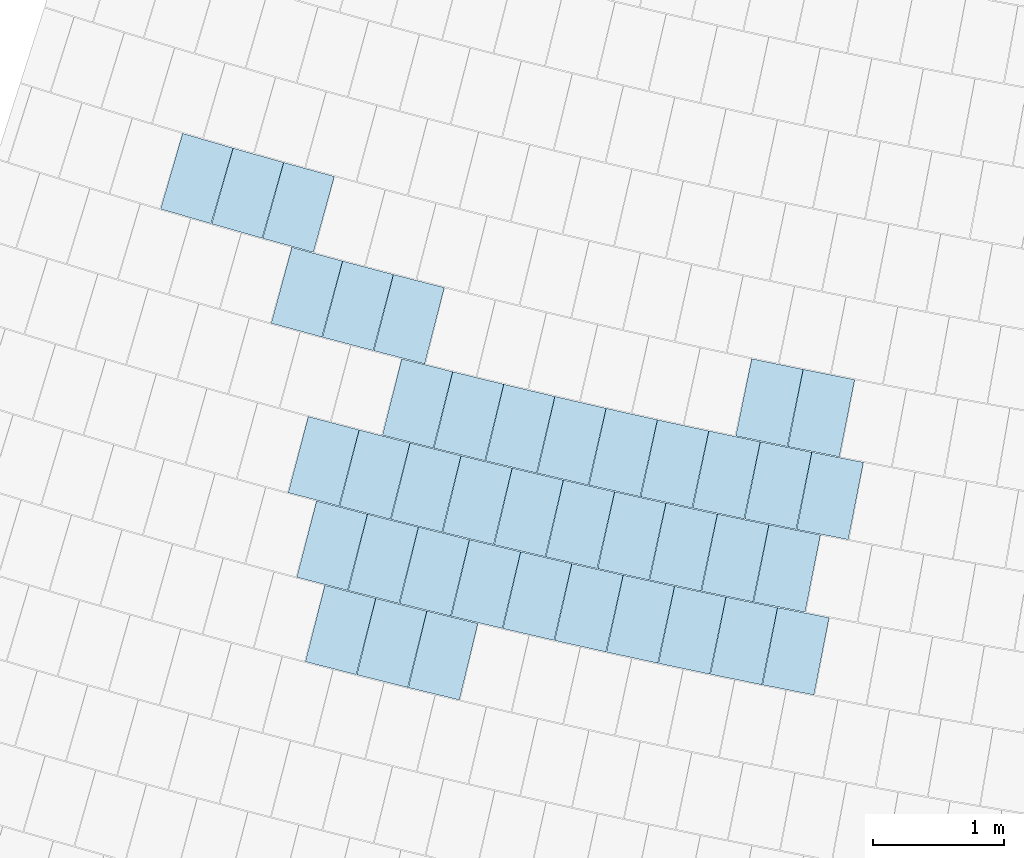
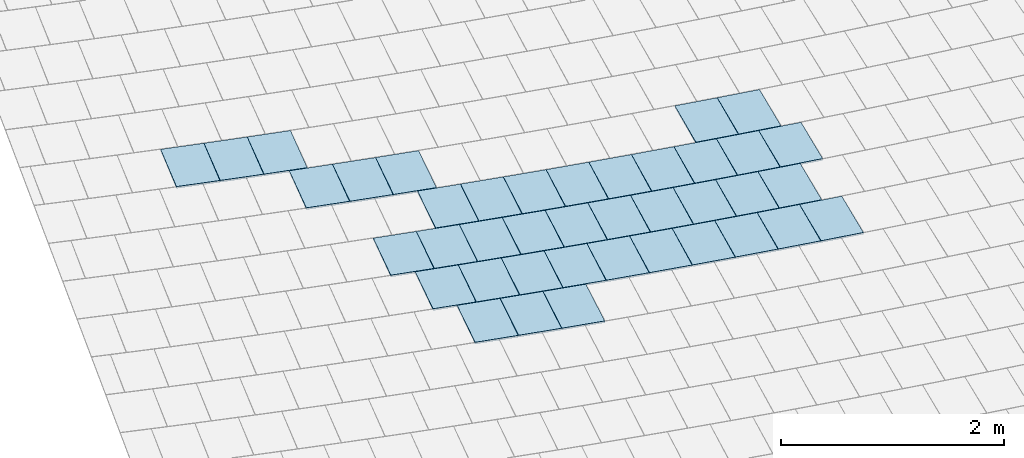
# One storey, part 21 of 438: 40 slabs.
"""IFC2X3 building model written with IfcOpenShell, lengths in millimetres."""

import ifcopenshell
import ifcopenshell.guid

model = None  # the IFC model being written
_history = None  # IfcOwnerHistory: only IFC2X3 demands one
_inside = {}  # id of a spatial element -> (the spatial element, [elements in it])
_under = {}  # id of a project, library or spatial element -> (it, [spatial elements below it])
_declared = {}  # id of a project -> (the project, [libraries it declares])
_typed = {}  # id of a type object -> (the type object, [elements of that type])
_made_of = {}  # id of a material, layer set ... -> (it, [elements and type objects made of it])


def new_model(schema):
    """Start an empty IFC model of exactly this schema.

    Asked for "IFC4X3", IfcOpenShell would pick the latest addendum, in which some entities
    have other attributes; the version numbers below select the first issue.
    IFC2X3 requires an IfcOwnerHistory on every rooted entity: one is made here for all.
    """
    global model, _history
    if schema == "IFC4X3":
        model = ifcopenshell.file(schema_version=(4, 3, 0, 0))
    else:
        model = ifcopenshell.file(schema=schema)
    _inside.clear()
    _under.clear()
    _declared.clear()
    _typed.clear()
    _made_of.clear()
    _history = None
    if model.schema == "IFC2X3":
        org = make("IfcOrganization", Name="unknown")
        user = make(
            "IfcPersonAndOrganization",
            ThePerson=make("IfcPerson", FamilyName="unknown"),
            TheOrganization=org,
        )
        app = make(
            "IfcApplication",
            ApplicationDeveloper=org,
            Version="unknown",
            ApplicationFullName="unknown",
            ApplicationIdentifier="unknown",
        )
        _history = make(
            "IfcOwnerHistory",
            OwningUser=user,
            OwningApplication=app,
            ChangeAction="ADDED",
            CreationDate=0,
        )
    return model


def make(cls, **values):
    """One entity of the class cls with the attributes given. An attribute that is None is left unset."""
    return model.create_entity(
        cls, **{name: value for name, value in values.items() if value is not None}
    )


def entity(cls, *values):
    """Any entity or typed value of the class cls, its attributes in the order of the schema. None: left unset."""
    e = model.create_entity(cls)
    for i, value in enumerate(values):
        if value is not None:
            e[i] = value
    return e


def rooted(cls, **values):
    """An entity with a GlobalId (a new one), such as an element, a storey or a relation."""
    return make(cls, GlobalId=ifcopenshell.guid.new(), OwnerHistory=_history, **values)


def si_unit(unit_type, name, prefix=None):
    """IfcSIUnit, for example si_unit("LENGTHUNIT", "METRE", prefix="MILLI")."""
    return make("IfcSIUnit", UnitType=unit_type, Prefix=prefix, Name=name)


def converted_unit(unit_type, name, factor, base, dimensions=None, offset=None):
    """IfcConversionBasedUnit, such as the inch: factor (a typed value) times the base unit."""
    return make(
        "IfcConversionBasedUnit"
        if offset is None
        else "IfcConversionBasedUnitWithOffset",
        ConversionOffset=offset,
        Dimensions=None
        if dimensions is None
        else entity("IfcDimensionalExponents", *dimensions),
        UnitType=unit_type,
        Name=name,
        ConversionFactor=make(
            "IfcMeasureWithUnit", ValueComponent=factor, UnitComponent=base
        ),
    )


def derived_unit(unit_type, elements):
    """IfcDerivedUnit: a product of units, each with its exponent."""
    return make(
        "IfcDerivedUnit",
        Elements=[
            make("IfcDerivedUnitElement", Unit=unit, Exponent=power)
            for unit, power in elements
        ],
        UnitType=unit_type,
    )


def assignment(units):
    """IfcUnitAssignment: the units of a project."""
    return None if units is None else make("IfcUnitAssignment", Units=units)


def point(xyz):
    """IfcCartesianPoint."""
    return None if xyz is None else make("IfcCartesianPoint", Coordinates=xyz)


def direction(xyz):
    """IfcDirection."""
    return None if xyz is None else make("IfcDirection", DirectionRatios=xyz)


def frame(location, z_axis=None, x_axis=None):
    """IfcAxis2Placement3D, a coordinate frame: its origin and axes. An axis left out is left unset."""
    return make(
        "IfcAxis2Placement3D",
        Location=point(location),
        Axis=direction(z_axis),
        RefDirection=direction(x_axis),
    )


def origin():
    """The frame at (0, 0, 0) with its axes left unset."""
    return frame((0.0, 0.0, 0.0))


def place(relative_to, where):
    """IfcLocalPlacement: puts the frame where relative to a parent placement (None: the world)."""
    return make(
        "IfcLocalPlacement", PlacementRelTo=relative_to, RelativePlacement=where
    )


def context(
    kind, dimensions, precision=None, world=None, true_north=None, identifier=None
):
    """IfcGeometricRepresentationContext, for example the 3D "Model" context."""
    return make(
        "IfcGeometricRepresentationContext",
        ContextIdentifier=identifier,
        ContextType=kind,
        CoordinateSpaceDimension=dimensions,
        Precision=precision,
        WorldCoordinateSystem=world,
        TrueNorth=true_north,
    )


def subcontext(parent, identifier, kind, view, scale=None):
    """IfcGeometricRepresentationSubContext, for example "Body" below "Model"."""
    return make(
        "IfcGeometricRepresentationSubContext",
        ContextIdentifier=identifier,
        ContextType=kind,
        ParentContext=parent,
        TargetScale=scale,
        TargetView=view,
    )


def project(units=None, contexts=None):
    """IfcProject with its units and contexts."""
    return rooted(
        "IfcProject",
        Name="project",
        RepresentationContexts=contexts,
        UnitsInContext=assignment(units),
    )


def spatial(cls, under=None, at=None, **own):
    """A site, building, storey or space (cls), placed at a placement, below another one or the project."""
    s = rooted(cls, ObjectPlacement=at, **own)
    if under is not None:
        _under.setdefault(under.id(), (under, []))[1].append(s)
    return s


def polyline(points):
    """IfcPolyline through the points."""
    return make("IfcPolyline", Points=[point(p) for p in points])


def outline(outer, holes=None, kind="AREA"):
    """IfcArbitraryClosedProfileDef: a profile drawn as a closed curve; with holes, ...WithVoids."""
    if holes is None:
        return make("IfcArbitraryClosedProfileDef", ProfileType=kind, OuterCurve=outer)
    return make(
        "IfcArbitraryProfileDefWithVoids",
        ProfileType=kind,
        OuterCurve=outer,
        InnerCurves=holes,
    )


def extrude(swept, where, along, depth):
    """IfcExtrudedAreaSolid: the profile swept, set in the frame where, extruded along a direction by depth."""
    return make(
        "IfcExtrudedAreaSolid",
        SweptArea=swept,
        Position=where,
        ExtrudedDirection=direction(along),
        Depth=depth,
    )


def shape(context_of_items, identifier, shape_type, items):
    """IfcShapeRepresentation: the items that make up one representation, for example the "Body"."""
    return make(
        "IfcShapeRepresentation",
        ContextOfItems=context_of_items,
        RepresentationIdentifier=identifier,
        RepresentationType=shape_type,
        Items=items,
    )


def material(Name=None, Category=None):
    """IfcMaterial."""
    return make("IfcMaterial", Name=Name, Category=Category)


def layer(
    of_material, thickness, ventilated=None, Name=None, Category=None, Priority=None
):
    """IfcMaterialLayer: one layer of a wall or slab, of a material (None: an air gap)."""
    return make(
        "IfcMaterialLayer",
        Material=of_material,
        LayerThickness=thickness,
        IsVentilated=ventilated,
        Name=Name,
        Category=Category,
        Priority=Priority,
    )


def layer_set(layers, Name=None):
    """IfcMaterialLayerSet."""
    return make("IfcMaterialLayerSet", MaterialLayers=layers, LayerSetName=Name)


def layer_usage(for_layer_set, set_direction, sense, offset, extent=None):
    """IfcMaterialLayerSetUsage: how a layer set lies in its element."""
    return make(
        "IfcMaterialLayerSetUsage",
        ForLayerSet=for_layer_set,
        LayerSetDirection=set_direction,
        DirectionSense=sense,
        OffsetFromReferenceLine=offset,
        ReferenceExtent=extent,
    )


def made_of(thing, what):
    """Note that an element or type object is made of a material, layer set ...; save() writes the relation."""
    if what is not None:
        _made_of.setdefault(what.id(), (what, []))[1].append(thing)
    return thing


def type_object(cls, material=None, **own):
    """A type object (cls), such as IfcWallType, which elements share."""
    return made_of(rooted(cls, **own), material)


def element(
    cls,
    number,
    at=None,
    inside=None,
    cuts=None,
    type_object=None,
    material=None,
    context=None,
    identifier="Body",
    shape_type=None,
    held_by="IfcProductDefinitionShape",
    body=None,
    shapes=None,
    **own,
):
    """One element of the class cls, such as IfcWall. Its Tag is "e" and its number.

    at: its placement. inside: the storey or other place that contains it. cuts: it is an
    opening in that element (IfcRelVoidsElement). A single representation is given by context,
    identifier, shape_type and body (its items); several are given by shapes. held_by: the class
    of the entity that holds the representations. save() writes the other relations.
    """
    e = rooted(cls, Tag="e%d" % number, ObjectPlacement=at, **own)
    if body is not None:
        shapes = [shape(context, identifier, shape_type, body)]
    if shapes is not None:
        e.Representation = make(held_by, Representations=shapes)
    if inside is not None:
        _inside.setdefault(inside.id(), (inside, []))[1].append(e)
    if cuts is not None:
        rooted(
            "IfcRelVoidsElement", RelatingBuildingElement=cuts, RelatedOpeningElement=e
        )
    if type_object is not None:
        _typed.setdefault(type_object.id(), (type_object, []))[1].append(e)
    return made_of(e, material)


def aggregate(whole, parts):
    """IfcRelAggregates: a whole, such as a stair, and the parts it consists of."""
    return rooted("IfcRelAggregates", RelatingObject=whole, RelatedObjects=parts)


def save(model, path):
    """Write the relations noted so far, then the file.

    IfcRelAggregates (storeys below a building ...), IfcRelContainedInSpatialStructure (elements
    in a storey), IfcRelDefinesByType, IfcRelAssociatesMaterial and IfcRelDeclares: one each for
    every whole, place, type object, material and project.
    """
    for whole, parts in _under.values():
        aggregate(whole, parts)
    for where, things in _inside.values():
        rooted(
            "IfcRelContainedInSpatialStructure",
            RelatedElements=things,
            RelatingStructure=where,
        )
    for kind, things in _typed.values():
        rooted("IfcRelDefinesByType", RelatedObjects=things, RelatingType=kind)
    for what, things in _made_of.values():
        rooted("IfcRelAssociatesMaterial", RelatedObjects=things, RelatingMaterial=what)
    for by, libraries in _declared.values():
        rooted("IfcRelDeclares", RelatingContext=by, RelatedDefinitions=libraries)
    model.write(path)


model = new_model("IFC2X3")

# Units and contexts
model_context = context("Model", 3, precision=0.01, world=origin(), true_north=direction((6.123031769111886e-17, 1.0)))
body_context = subcontext(model_context, "Body", "Model", "MODEL_VIEW")
ifc_project = project(units=[si_unit("LENGTHUNIT", "METRE", prefix="MILLI"), si_unit("AREAUNIT", "SQUARE_METRE"), si_unit("VOLUMEUNIT", "CUBIC_METRE"), converted_unit("PLANEANGLEUNIT", "DEGREE", entity("IfcRatioMeasure", 0.017453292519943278), si_unit("PLANEANGLEUNIT", "RADIAN"), dimensions=[0, 0, 0, 0, 0, 0, 0]), si_unit("MASSUNIT", "GRAM", prefix="KILO"), derived_unit("MASSDENSITYUNIT", [(si_unit("MASSUNIT", "GRAM", prefix="KILO"), 1), (si_unit("LENGTHUNIT", "METRE"), -3)]), derived_unit("MOMENTOFINERTIAUNIT", [(si_unit("LENGTHUNIT", "METRE"), 4)]), si_unit("TIMEUNIT", "SECOND"), si_unit("FREQUENCYUNIT", "HERTZ"), si_unit("THERMODYNAMICTEMPERATUREUNIT", "DEGREE_CELSIUS"), derived_unit("THERMALTRANSMITTANCEUNIT", [(si_unit("MASSUNIT", "GRAM", prefix="KILO"), 1), (si_unit("THERMODYNAMICTEMPERATUREUNIT", "KELVIN"), -1), (si_unit("TIMEUNIT", "SECOND"), -3)]), derived_unit("THERMALCONDUCTANCEUNIT", [(si_unit("MASSUNIT", "GRAM", prefix="KILO"), 1), (si_unit("LENGTHUNIT", "METRE"), 1), (si_unit("THERMODYNAMICTEMPERATUREUNIT", "KELVIN"), -1), (si_unit("TIMEUNIT", "SECOND"), -3)]), derived_unit("VOLUMETRICFLOWRATEUNIT", [(si_unit("LENGTHUNIT", "METRE"), 3), (si_unit("TIMEUNIT", "SECOND"), -1)]), derived_unit("MASSFLOWRATEUNIT", [(si_unit("MASSUNIT", "GRAM", prefix="KILO"), 1), (si_unit("TIMEUNIT", "SECOND"), -1)]), derived_unit("ROTATIONALFREQUENCYUNIT", [(si_unit("TIMEUNIT", "SECOND"), -1)]), si_unit("ELECTRICCURRENTUNIT", "AMPERE"), si_unit("ELECTRICVOLTAGEUNIT", "VOLT"), si_unit("POWERUNIT", "WATT"), converted_unit("FORCEUNIT", "KIP", entity("IfcRatioMeasure", 2.088543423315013e-05), si_unit("FORCEUNIT", "NEWTON"), dimensions=[1, 1, -2, 0, 0, 0, 0]), si_unit("ILLUMINANCEUNIT", "LUX"), si_unit("LUMINOUSFLUXUNIT", "LUMEN"), si_unit("LUMINOUSINTENSITYUNIT", "CANDELA"), derived_unit("USERDEFINED", [(si_unit("MASSUNIT", "GRAM", prefix="KILO"), -1), (si_unit("LENGTHUNIT", "METRE"), -2), (si_unit("TIMEUNIT", "SECOND"), 3), (si_unit("LUMINOUSFLUXUNIT", "LUMEN"), 1)]), derived_unit("USERDEFINED", [(si_unit("MASSUNIT", "GRAM", prefix="KILO"), 1), (si_unit("LENGTHUNIT", "METRE"), 3), (si_unit("TIMEUNIT", "SECOND"), -3), (si_unit("ELECTRICCURRENTUNIT", "AMPERE"), -2)]), derived_unit("USERDEFINED", [(si_unit("LENGTHUNIT", "METRE"), 2), (si_unit("TIMEUNIT", "SECOND"), -2)]), derived_unit("SOUNDPOWERUNIT", [(si_unit("MASSUNIT", "GRAM", prefix="KILO"), 1), (si_unit("LENGTHUNIT", "METRE"), 2), (si_unit("TIMEUNIT", "SECOND"), -3)]), derived_unit("SOUNDPRESSUREUNIT", [(si_unit("MASSUNIT", "GRAM", prefix="KILO"), 1), (si_unit("LENGTHUNIT", "METRE"), -1), (si_unit("TIMEUNIT", "SECOND"), -2)]), derived_unit("LINEARVELOCITYUNIT", [(si_unit("LENGTHUNIT", "METRE"), 1), (si_unit("TIMEUNIT", "SECOND"), -1)]), si_unit("PRESSUREUNIT", "PASCAL"), derived_unit("USERDEFINED", [(si_unit("LENGTHUNIT", "METRE"), -2), (si_unit("MASSUNIT", "GRAM", prefix="KILO"), 1), (si_unit("TIMEUNIT", "SECOND"), -2)]), derived_unit("LINEARFORCEUNIT", [(si_unit("MASSUNIT", "GRAM", prefix="KILO"), 1), (si_unit("LENGTHUNIT", "METRE"), 1), (si_unit("TIMEUNIT", "SECOND"), -2), (si_unit("LENGTHUNIT", "METRE"), -1)]), derived_unit("PLANARFORCEUNIT", [(si_unit("MASSUNIT", "GRAM", prefix="KILO"), 1), (si_unit("LENGTHUNIT", "METRE"), 1), (si_unit("TIMEUNIT", "SECOND"), -2), (si_unit("LENGTHUNIT", "METRE"), -2)]), derived_unit("SPECIFICHEATCAPACITYUNIT", [(si_unit("LENGTHUNIT", "METRE"), 2), (si_unit("TIMEUNIT", "SECOND"), -2), (si_unit("THERMODYNAMICTEMPERATUREUNIT", "KELVIN"), -1)]), derived_unit("VAPORPERMEABILITYUNIT", [(si_unit("TIMEUNIT", "SECOND"), 1), (si_unit("LENGTHUNIT", "METRE"), -1)]), derived_unit("DYNAMICVISCOSITYUNIT", [(si_unit("MASSUNIT", "GRAM", prefix="KILO"), 1), (si_unit("LENGTHUNIT", "METRE"), -1), (si_unit("TIMEUNIT", "SECOND"), -1)]), derived_unit("THERMALEXPANSIONCOEFFICIENTUNIT", [(si_unit("THERMODYNAMICTEMPERATUREUNIT", "KELVIN"), -1)])], contexts=[model_context])

# Site, building, storey
site_placement = place(None, frame((0.0, 0.0, 0.0), z_axis=(0.0, 0.0, 1.0), x_axis=(0.8191520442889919, 0.5735764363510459, 0.0)))
site = spatial("IfcSite", under=ifc_project, at=site_placement, Name="Default", CompositionType="ELEMENT")
building_placement = place(site_placement, origin())
building = spatial("IfcBuilding", under=site, at=building_placement, CompositionType="ELEMENT")
storey_placement = place(building_placement, origin())
storey = spatial("IfcBuildingStorey", under=building, at=storey_placement, Name="PLAN", CompositionType="ELEMENT", Elevation=0.0)

# Slabs
ifc_material = material(Name="Paint-01")
ifc_layer = layer(ifc_material, 20.00000000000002)
ifc_layer_set = layer_set([ifc_layer], Name="Floor:Slab-179:1000")
ifc_layer_usage = layer_usage(ifc_layer_set, "AXIS3", "POSITIVE", 0.0)
slab_type = type_object("IfcSlabType", Name="Floor:Slab-179:1000", PredefinedType="FLOOR", material=ifc_layer_set)
slab_1_placement = place(storey_placement, origin())
element("IfcSlab", 1, at=slab_1_placement, inside=storey, type_object=slab_type, material=ifc_layer_usage, Name="Floor:Slab-179:1000", ObjectType="Floor:Slab-179:1000", PredefinedType="FLOOR", context=body_context, shape_type="SweptSolid", body=[
    extrude(outline(polyline([(-200.00000134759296, -299.99999869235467), (200.000004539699, -299.99999869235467), (200.0000013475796, 299.99999869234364), (-200.00000453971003, 299.999998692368), (-200.00000134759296, -299.99999869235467)])), frame((-84722.98040924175, -104624.17001292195, 520.0), z_axis=(0.0, 0.0, -1.0), x_axis=(0.6368566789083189, -0.7709822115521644, 0.0)), (0.0, 0.0, 1.0), 20.000000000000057),
])
slab_2_placement = place(storey_placement, origin())
element("IfcSlab", 2, at=slab_2_placement, inside=storey, type_object=slab_type, material=ifc_layer_usage, Name="Floor:Slab-179:1000", ObjectType="Floor:Slab-179:1000", PredefinedType="FLOOR", context=body_context, shape_type="SweptSolid", body=[
    extrude(outline(polyline([(-200.00000134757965, -299.9999986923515), (200.00000453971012, -299.9999986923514), (200.00000134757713, 299.9999986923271), (-200.00000453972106, 299.99999869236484), (-200.00000134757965, -299.9999986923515)])), frame((-84977.9716988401, -104313.27204079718, 520.0), z_axis=(0.0, 0.0, -1.0), x_axis=(0.6314582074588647, -0.7754099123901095, 0.0)), (0.0, 0.0, 1.0), 20.000000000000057),
])
slab_3_placement = place(storey_placement, origin())
element("IfcSlab", 3, at=slab_3_placement, inside=storey, type_object=slab_type, material=ifc_layer_usage, Name="Floor:Slab-179:1000", ObjectType="Floor:Slab-179:1000", PredefinedType="FLOOR", context=body_context, shape_type="SweptSolid", body=[
    extrude(outline(polyline([(-200.00000134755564, -299.99999869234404), (200.00000453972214, -299.9999986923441), (200.00000134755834, 299.9999986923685), (-200.00000453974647, 299.99999869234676), (-200.00000134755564, -299.99999869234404)])), frame((-85230.78610343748, -104000.60131356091, 520.0), z_axis=(0.0, 0.0, -1.0), x_axis=(0.6260289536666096, -0.7797998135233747, 0.0)), (0.0, 0.0, 1.0), 20.000000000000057),
])
slab_4_placement = place(storey_placement, origin())
element("IfcSlab", 4, at=slab_4_placement, inside=storey, type_object=slab_type, material=ifc_layer_usage, Name="Floor:Slab-179:1000", ObjectType="Floor:Slab-179:1000", PredefinedType="FLOOR", context=body_context, shape_type="SweptSolid", body=[
    extrude(outline(polyline([(-200.00000134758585, -299.99999869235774), (200.00000453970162, -299.99999869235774), (200.0000013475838, 299.99999869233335), (-200.000004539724, 299.9999986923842), (-200.00000134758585, -299.99999869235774)])), frame((-84782.3890638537, -105496.78883078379, 520.0), z_axis=(0.0, 0.0, -1.0), x_axis=(0.645230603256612, -0.763987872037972, 0.0)), (0.0, 0.0, 1.0), 20.000000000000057),
])
slab_5_placement = place(storey_placement, origin())
element("IfcSlab", 5, at=slab_5_placement, inside=storey, type_object=slab_type, material=ifc_layer_usage, Name="Floor:Slab-179:1000", ObjectType="Floor:Slab-179:1000", PredefinedType="FLOOR", context=body_context, shape_type="SweptSolid", body=[
    extrude(outline(polyline([(-200.0000013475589, -299.99999869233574), (200.00000453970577, -299.9999986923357), (200.0000013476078, 299.9999986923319), (-200.00000453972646, 299.99999869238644), (-200.0000013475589, -299.99999869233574)])), frame((-84521.90139005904, -105803.06765436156, 520.0), z_axis=(0.0, 0.0, -1.0), x_axis=(0.6504935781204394, -0.7595117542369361, 0.0)), (0.0, 0.0, 1.0), 20.000000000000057),
])
slab_6_placement = place(storey_placement, origin())
element("IfcSlab", 6, at=slab_6_placement, inside=storey, type_object=slab_type, material=ifc_layer_usage, Name="Floor:Slab-179:1000", ObjectType="Floor:Slab-179:1000", PredefinedType="FLOOR", context=body_context, shape_type="SweptSolid", body=[
    extrude(outline(polyline([(-200.00000134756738, -299.99999869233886), (200.00000453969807, -299.9999986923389), (200.0000013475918, 299.9999986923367), (-200.00000453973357, 299.99999869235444), (-200.00000134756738, -299.99999869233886)])), frame((-85040.75444712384, -105188.71761385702, 520.0), z_axis=(0.0, 0.0, -1.0), x_axis=(0.6399368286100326, -0.7684275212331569, 0.0)), (0.0, 0.0, 1.0), 19.999999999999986),
])
slab_7_placement = place(storey_placement, origin())
element("IfcSlab", 7, at=slab_7_placement, inside=storey, type_object=slab_type, material=ifc_layer_usage, Name="Floor:Slab-179:1000", ObjectType="Floor:Slab-179:1000", PredefinedType="FLOOR", context=body_context, shape_type="SweptSolid", body=[
    extrude(outline(polyline([(-299.999997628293, -200.00000294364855), (300.0, -200.0000029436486), (299.99999762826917, 200.00000294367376), (-300.0, 200.00000294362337), (-299.999997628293, -200.00000294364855)])), frame((-82640.12063053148, -107895.61527458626, 520.0), z_axis=(0.0, 0.0, -1.0), x_axis=(-0.7271759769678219, -0.6864510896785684, 0.0)), (0.0, 0.0, 1.0), 20.000000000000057),
])
slab_8_placement = place(storey_placement, origin())
element("IfcSlab", 8, at=slab_8_placement, inside=storey, type_object=slab_type, material=ifc_layer_usage, Name="Floor:Slab-179:1000", ObjectType="Floor:Slab-179:1000", PredefinedType="FLOOR", context=body_context, shape_type="SweptSolid", body=[
    extrude(outline(polyline([(-200.00000134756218, -300.0), (200.00000453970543, -300.0), (200.0000013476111, 300.0), (-200.00000453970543, 300.0), (-200.00000134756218, -300.0)])), frame((-84039.3022515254, -107269.94791165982, 520.0), z_axis=(0.0, 0.0, -1.0), x_axis=(0.6687475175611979, -0.7434895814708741, 0.0)), (0.0, 0.0, 1.0), 19.999999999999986),
])
slab_9_placement = place(storey_placement, origin())
element("IfcSlab", 9, at=slab_9_placement, inside=storey, type_object=slab_type, material=ifc_layer_usage, Name="Floor:Slab-179:1000", ObjectType="Floor:Slab-179:1000", PredefinedType="FLOOR", context=body_context, shape_type="SweptSolid", body=[
    extrude(outline(polyline([(-200.00000134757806, -300.0), (200.0000045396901, -300.0), (200.00000134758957, 300.0), (-200.000004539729, 300.0), (-200.00000134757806, -300.0)])), frame((-84307.14796809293, -106970.11125454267, 520.0), z_axis=(0.0, 0.0, -1.0), x_axis=(0.663648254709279, -0.7480447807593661, 0.0)), (0.0, 0.0, 1.0), 20.000000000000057),
])
slab_10_placement = place(storey_placement, origin())
element("IfcSlab", 10, at=slab_10_placement, inside=storey, type_object=slab_type, material=ifc_layer_usage, Name="Floor:Slab-179:1000", ObjectType="Floor:Slab-179:1000", PredefinedType="FLOOR", context=body_context, shape_type="SweptSolid", body=[
    extrude(outline(polyline([(-200.0000013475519, -300.0), (200.00000453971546, -300.0), (200.0000013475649, 300.0), (-200.00000453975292, 300.0), (-200.0000013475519, -300.0)])), frame((-84572.93728221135, -106668.4502041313, 520.0), z_axis=(0.0, 0.0, -1.0), x_axis=(0.6585179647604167, -0.752565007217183, 0.0)), (0.0, 0.0, 1.0), 20.000000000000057),
])
slab_11_placement = place(storey_placement, origin())
element("IfcSlab", 11, at=slab_11_placement, inside=storey, type_object=slab_type, material=ifc_layer_usage, Name="Floor:Slab-179:1000", ObjectType="Floor:Slab-179:1000", PredefinedType="FLOOR", context=body_context, shape_type="SweptSolid", body=[
    extrude(outline(polyline([(-200.0000013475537, -300.0), (200.00000453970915, -300.0), (200.00000134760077, 300.0), (-200.00000453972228, 300.0), (-200.0000013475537, -300.0)])), frame((-84836.65776761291, -106364.9788637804, 520.0), z_axis=(0.0, 0.0, -1.0), x_axis=(0.6533568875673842, -0.7570500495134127, 0.0)), (0.0, 0.0, 1.0), 20.000000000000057),
])
slab_12_placement = place(storey_placement, origin())
element("IfcSlab", 12, at=slab_12_placement, inside=storey, type_object=slab_type, material=ifc_layer_usage, Name="Floor:Slab-179:1000", ObjectType="Floor:Slab-179:1000", PredefinedType="FLOOR", context=body_context, shape_type="SweptSolid", body=[
    extrude(outline(polyline([(-299.9999989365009, -200.00000294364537), (300.0000010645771, -200.00000294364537), (299.9999989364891, 200.00000294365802), (-300.0000010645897, 200.00000294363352), (-299.9999989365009, -200.00000294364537)])), frame((-83223.55238840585, -108158.37177305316, 520.0), z_axis=(0.0, 0.0, -1.0), x_axis=(-0.7296162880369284, -0.6838567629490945, 0.0)), (0.0, 0.0, 1.0), 20.000000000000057),
])
slab_13_placement = place(storey_placement, origin())
element("IfcSlab", 13, at=slab_13_placement, inside=storey, type_object=slab_type, material=ifc_layer_usage, Name="Floor:Slab-179:1000", ObjectType="Floor:Slab-179:1000", PredefinedType="FLOOR", context=body_context, shape_type="SweptSolid", body=[
    extrude(outline(polyline([(-299.9999989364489, -200.00000294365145), (300.0000010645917, -200.00000294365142), (299.9999989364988, 200.000002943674), (-300.0000010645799, 200.00000294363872), (-299.9999989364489, -200.00000294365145)])), frame((-83497.49179623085, -107864.09205972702, 520.0), z_axis=(0.0, 0.0, -1.0), x_axis=(-0.7342751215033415, -0.6788520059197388, 0.0)), (0.0, 0.0, 1.0), 20.000000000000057),
])
slab_14_placement = place(storey_placement, origin())
element("IfcSlab", 14, at=slab_14_placement, inside=storey, type_object=slab_type, material=ifc_layer_usage, Name="Floor:Slab-179:1000", ObjectType="Floor:Slab-179:1000", PredefinedType="FLOOR", context=body_context, shape_type="SweptSolid", body=[
    extrude(outline(polyline([(-299.9999989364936, -200.00000294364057), (300.0000010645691, -200.00000294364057), (299.99999893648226, 200.00000294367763), (-300.0000010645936, 200.0000029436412), (-299.9999989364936, -200.00000294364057)])), frame((-82947.60723874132, -108450.7715391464, 520.0), z_axis=(0.0, 0.0, -1.0), x_axis=(-0.7249233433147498, -0.6888295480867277, 0.0)), (0.0, 0.0, 1.0), 20.000000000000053),
])
slab_15_placement = place(storey_placement, origin())
element("IfcSlab", 15, at=slab_15_placement, inside=storey, type_object=slab_type, material=ifc_layer_usage, Name="Floor:Slab-179:1000", ObjectType="Floor:Slab-179:1000", PredefinedType="FLOOR", context=body_context, shape_type="SweptSolid", body=[
    extrude(outline(polyline([(-299.9999989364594, -200.0000029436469), (300.0000010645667, -200.0000029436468), (299.9999989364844, 200.00000294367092), (-300.0000010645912, 200.00000294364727), (-299.9999989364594, -200.0000029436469)])), frame((-82669.6692483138, -108741.27768763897, 520.0), z_axis=(0.0, 0.0, -1.0), x_axis=(-0.7201965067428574, -0.6937701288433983, 0.0)), (0.0, 0.0, 1.0), 20.000000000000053),
])
slab_16_placement = place(storey_placement, origin())
element("IfcSlab", 16, at=slab_16_placement, inside=storey, type_object=slab_type, material=ifc_layer_usage, Name="Floor:Slab-179:1000", ObjectType="Floor:Slab-179:1000", PredefinedType="FLOOR", context=body_context, shape_type="SweptSolid", body=[
    extrude(outline(polyline([(-299.999997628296, -200.0000029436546), (300.0, -200.00000294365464), (299.9999976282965, 200.0000029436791), (-300.0, 200.00000294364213), (-299.999997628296, -200.0000029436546)])), frame((-82363.11064972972, -108187.03596106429, 520.0), z_axis=(0.0, 0.0, -1.0), x_axis=(-0.7224159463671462, -0.6914587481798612, 0.0)), (0.0, 0.0, 1.0), 20.000000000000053),
])
slab_17_placement = place(storey_placement, origin())
element("IfcSlab", 17, at=slab_17_placement, inside=storey, type_object=slab_type, material=ifc_layer_usage, Name="Floor:Slab-179:1000", ObjectType="Floor:Slab-179:1000", PredefinedType="FLOOR", context=body_context, shape_type="SweptSolid", body=[
    extrude(outline(polyline([(-200.00000134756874, -299.99999869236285), (200.00000453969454, -299.99999869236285), (200.00000134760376, 299.9999986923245), (-200.00000453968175, 299.99999869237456), (-200.00000134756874, -299.99999869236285)])), frame((-84660.67971227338, -108386.33479708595, 520.0), z_axis=(0.0, 0.0, -1.0), x_axis=(0.6738667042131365, -0.7388529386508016, 0.0)), (0.0, 0.0, 1.0), 20.000000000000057),
])
slab_18_placement = place(storey_placement, origin())
element("IfcSlab", 18, at=slab_18_placement, inside=storey, type_object=slab_type, material=ifc_layer_usage, Name="Floor:Slab-179:1000", ObjectType="Floor:Slab-179:1000", PredefinedType="FLOOR", context=body_context, shape_type="SweptSolid", body=[
    extrude(outline(polyline([(-200.0000013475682, -300.0), (200.00000453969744, -300.0), (200.00000134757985, 300.0), (-200.0000045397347, 300.0), (-200.0000013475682, -300.0)])), frame((-83769.41265491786, -107567.9461574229, 520.0), z_axis=(0.0, 0.0, -1.0), x_axis=(0.6738155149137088, -0.7388996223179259, 0.0)), (0.0, 0.0, 1.0), 20.000000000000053),
])
slab_19_placement = place(storey_placement, origin())
element("IfcSlab", 19, at=slab_19_placement, inside=storey, type_object=slab_type, material=ifc_layer_usage, Name="Floor:Slab-179:1000", ObjectType="Floor:Slab-179:1000", PredefinedType="FLOOR", context=body_context, shape_type="SweptSolid", body=[
    extrude(outline(polyline([(-200.00000134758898, -299.99999869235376), (200.00000453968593, -299.99999869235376), (200.00000134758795, 299.9999986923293), (-200.00000453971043, 299.99999869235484), (-200.00000134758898, -299.99999869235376)])), frame((-84079.34330545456, -108125.43583316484, 520.0), z_axis=(0.0, 0.0, -1.0), x_axis=(0.676337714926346, -0.7365916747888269, 0.0)), (0.0, 0.0, 1.0), 19.999999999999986),
])
slab_20_placement = place(storey_placement, origin())
element("IfcSlab", 20, at=slab_20_placement, inside=storey, type_object=slab_type, material=ifc_layer_usage, Name="Floor:Slab-179:1000", ObjectType="Floor:Slab-179:1000", PredefinedType="FLOOR", context=body_context, shape_type="SweptSolid", body=[
    extrude(outline(polyline([(-200.00000134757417, -299.99999869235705), (200.0000045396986, -299.9999986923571), (200.00000134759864, 299.99999869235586), (-200.00000453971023, 299.9999986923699), (-200.00000134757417, -299.99999869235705)])), frame((-84350.24639578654, -107828.38698217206, 520.0), z_axis=(0.0, 0.0, -1.0), x_axis=(0.6713373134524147, -0.7411519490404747, 0.0)), (0.0, 0.0, 1.0), 20.000000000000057),
])
slab_21_placement = place(storey_placement, origin())
element("IfcSlab", 21, at=slab_21_placement, inside=storey, type_object=slab_type, material=ifc_layer_usage, Name="Floor:Slab-179:1000", ObjectType="Floor:Slab-179:1000", PredefinedType="FLOOR", context=body_context, shape_type="SweptSolid", body=[
    extrude(outline(polyline([(-200.0000013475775, -299.9999986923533), (200.00000453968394, -299.99999869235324), (200.00000134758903, 299.99999869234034), (-200.00000453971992, 299.99999869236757), (-200.0000013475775, -299.9999986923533)])), frame((-84619.13299257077, -107529.51158623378, 520.0), z_axis=(0.0, 0.0, -1.0), x_axis=(0.666306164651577, -0.7456782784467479, 0.0)), (0.0, 0.0, 1.0), 19.999999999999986),
])
slab_22_placement = place(storey_placement, origin())
element("IfcSlab", 22, at=slab_22_placement, inside=storey, type_object=slab_type, material=ifc_layer_usage, Name="Floor:Slab-179:1000", ObjectType="Floor:Slab-179:1000", PredefinedType="FLOOR", context=body_context, shape_type="SweptSolid", body=[
    extrude(outline(polyline([(-200.00000134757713, -299.9999986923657), (200.00000453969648, -299.9999986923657), (200.0000013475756, 299.99999869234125), (-200.0000045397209, 299.9999986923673), (-200.00000134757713, -299.9999986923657)])), frame((-84885.99078076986, -107228.82333387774, 520.0), z_axis=(0.0, 0.0, -1.0), x_axis=(0.6612444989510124, -0.7501704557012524, 0.0)), (0.0, 0.0, 1.0), 20.000000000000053),
])
slab_23_placement = place(storey_placement, origin())
element("IfcSlab", 23, at=slab_23_placement, inside=storey, type_object=slab_type, material=ifc_layer_usage, Name="Floor:Slab-179:1000", ObjectType="Floor:Slab-179:1000", PredefinedType="FLOOR", context=body_context, shape_type="SweptSolid", body=[
    extrude(outline(polyline([(-200.0000013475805, -299.9999986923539), (200.00000453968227, -299.9999986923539), (200.0000013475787, 299.9999986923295), (-200.00000453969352, 299.9999986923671), (-200.0000013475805, -299.9999986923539)])), frame((-85413.57113642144, -106622.06342853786, 520.0), z_axis=(0.0, 0.0, -1.0), x_axis=(0.6510305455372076, -0.7590515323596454, 0.0)), (0.0, 0.0, 1.0), 20.000000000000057),
])
slab_24_placement = place(storey_placement, origin())
element("IfcSlab", 24, at=slab_24_placement, inside=storey, type_object=slab_type, material=ifc_layer_usage, Name="Floor:Slab-179:1000", ObjectType="Floor:Slab-179:1000", PredefinedType="FLOOR", context=body_context, shape_type="SweptSolid", body=[
    extrude(outline(polyline([(-200.00000134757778, -299.9999986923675), (200.00000453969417, -299.9999986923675), (200.0000013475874, 299.99999869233), (-200.00000453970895, 299.99999869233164), (-200.00000134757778, -299.9999986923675)])), frame((-85150.80753826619, -106926.33599666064, 520.0), z_axis=(0.0, 0.0, -1.0), x_axis=(0.6561525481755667, -0.7546282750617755, 0.0)), (0.0, 0.0, 1.0), 19.999999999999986),
])
slab_25_placement = place(storey_placement, origin())
element("IfcSlab", 25, at=slab_25_placement, inside=storey, type_object=slab_type, material=ifc_layer_usage, Name="Floor:Slab-179:1000", ObjectType="Floor:Slab-179:1000", PredefinedType="FLOOR", context=body_context, shape_type="SweptSolid", body=[
    extrude(outline(polyline([(-200.00000134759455, -299.99999869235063), (200.0000045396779, -299.99999869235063), (200.00000134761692, 299.9999986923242), (-200.0000045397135, 299.9999986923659), (-200.00000134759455, -299.99999869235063)])), frame((-85674.26954063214, -106316.01956522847, 520.0), z_axis=(0.0, 0.0, -1.0), x_axis=(0.6458787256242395, -0.7634400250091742, 0.0)), (0.0, 0.0, 1.0), 19.999999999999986),
])
slab_26_placement = place(storey_placement, origin())
element("IfcSlab", 26, at=slab_26_placement, inside=storey, type_object=slab_type, material=ifc_layer_usage, Name="Floor:Slab-179:1000", ObjectType="Floor:Slab-179:1000", PredefinedType="FLOOR", context=body_context, shape_type="SweptSolid", body=[
    extrude(outline(polyline([(-299.99999762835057, -200.00000294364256), (300.0, -200.0000029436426), (299.9999976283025, 200.0000029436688), (-300.0, 200.0000029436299), (-299.99999762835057, -200.00000294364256)])), frame((-83806.43612897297, -108420.6445343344, 520.0), z_axis=(0.0, 0.0, -1.0), x_axis=(-0.7319976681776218, -0.681307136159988, 0.0)), (0.0, 0.0, 1.0), 20.000000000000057),
])
slab_27_placement = place(storey_placement, origin())
element("IfcSlab", 27, at=slab_27_placement, inside=storey, type_object=slab_type, material=ifc_layer_usage, Name="Floor:Slab-179:1000", ObjectType="Floor:Slab-179:1000", PredefinedType="FLOOR", context=body_context, shape_type="SweptSolid", body=[
    extrude(outline(polyline([(-299.99999762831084, -200.00000294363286), (300.0, -200.0000029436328), (299.99999762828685, 200.0000029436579), (-300.0, 200.0000029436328), (-299.99999762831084, -200.00000294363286)])), frame((-83254.65960547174, -109005.48748975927, 520.0), z_axis=(0.0, 0.0, -1.0), x_axis=(-0.7227092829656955, -0.6911521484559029, 0.0)), (0.0, 0.0, 1.0), 20.000000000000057),
])
slab_28_placement = place(storey_placement, origin())
element("IfcSlab", 28, at=slab_28_placement, inside=storey, type_object=slab_type, material=ifc_layer_usage, Name="Floor:Slab-179:1000", ObjectType="Floor:Slab-179:1000", PredefinedType="FLOOR", context=body_context, shape_type="SweptSolid", body=[
    extrude(outline(polyline([(-299.99999762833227, -200.00000294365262), (300.0, -200.00000294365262), (299.99999762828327, 200.00000294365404), (-300.0, 200.00000294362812), (-299.99999762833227, -200.00000294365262)])), frame((-83531.53736551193, -108713.99956509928, 520.0), z_axis=(0.0, 0.0, -1.0), x_axis=(-0.7273701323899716, -0.6862453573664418, 0.0)), (0.0, 0.0, 1.0), 19.999999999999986),
])
slab_29_placement = place(storey_placement, origin())
element("IfcSlab", 29, at=slab_29_placement, inside=storey, type_object=slab_type, material=ifc_layer_usage, Name="Floor:Slab-179:1000", ObjectType="Floor:Slab-179:1000", PredefinedType="FLOOR", context=body_context, shape_type="SweptSolid", body=[
    extrude(outline(polyline([(-200.00000134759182, -299.99999869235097), (200.00000453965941, -299.99999869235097), (200.0000013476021, 299.9999986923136), (-200.00000453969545, 299.9999986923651), (-200.00000134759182, -299.99999869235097)])), frame((-84930.58275178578, -108088.40468665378, 520.0), z_axis=(0.0, 0.0, -1.0), x_axis=(0.6689020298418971, -0.7433505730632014, 0.0)), (0.0, 0.0, 1.0), 20.000000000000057),
])
slab_30_placement = place(storey_placement, origin())
element("IfcSlab", 30, at=slab_30_placement, inside=storey, type_object=slab_type, material=ifc_layer_usage, Name="Floor:Slab-179:1000", ObjectType="Floor:Slab-179:1000", PredefinedType="FLOOR", context=body_context, shape_type="SweptSolid", body=[
    extrude(outline(polyline([(-200.00000134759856, -299.9999986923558), (200.00000453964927, -299.9999986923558), (200.0000013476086, 299.9999986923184), (-200.00000453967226, 299.9999986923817), (-200.00000134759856, -299.9999986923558)])), frame((-85198.48391014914, -107788.67318882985, 520.0), z_axis=(0.0, 0.0, -1.0), x_axis=(0.6639073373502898, -0.7478148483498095, 0.0)), (0.0, 0.0, 1.0), 20.000000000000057),
])
slab_31_placement = place(storey_placement, origin())
element("IfcSlab", 31, at=slab_31_placement, inside=storey, type_object=slab_type, material=ifc_layer_usage, Name="Floor:Slab-179:1000", ObjectType="Floor:Slab-179:1000", PredefinedType="FLOOR", context=body_context, shape_type="SweptSolid", body=[
    extrude(outline(polyline([(-200.00000134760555, -299.99999869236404), (200.0000045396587, -299.99999869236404), (200.0000013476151, 299.99999869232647), (-200.0000045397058, 299.99999869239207), (-200.00000134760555, -299.99999869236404)])), frame((-85728.23258371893, -107183.85991509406, 520.0), z_axis=(0.0, 0.0, -1.0), x_axis=(0.6538287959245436, -0.7566425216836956, 0.0)), (0.0, 0.0, 1.0), 20.000000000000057),
])
slab_32_placement = place(storey_placement, origin())
element("IfcSlab", 32, at=slab_32_placement, inside=storey, type_object=slab_type, material=ifc_layer_usage, Name="Floor:Slab-179:1000", ObjectType="Floor:Slab-179:1000", PredefinedType="FLOOR", context=body_context, shape_type="SweptSolid", body=[
    extrude(outline(polyline([(-200.00000134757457, -299.9999986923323), (200.00000453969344, -299.9999986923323), (200.0000013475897, 299.99999869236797), (-200.00000453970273, 299.99999869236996), (-200.00000134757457, -299.9999986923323)])), frame((-85990.05632554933, -106878.80528121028, 520.0), z_axis=(0.0, 0.0, -1.0), x_axis=(0.6487453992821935, -0.7610055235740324, 0.0)), (0.0, 0.0, 1.0), 20.000000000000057),
])
slab_33_placement = place(storey_placement, origin())
element("IfcSlab", 33, at=slab_33_placement, inside=storey, type_object=slab_type, material=ifc_layer_usage, Name="Floor:Slab-179:1000", ObjectType="Floor:Slab-179:1000", PredefinedType="FLOOR", context=body_context, shape_type="SweptSolid", body=[
    extrude(outline(polyline([(-200.00000134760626, -299.9999986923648), (200.0000045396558, -299.9999986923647), (200.0000013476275, 299.9999986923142), (-200.00000453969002, 299.99999869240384), (-200.00000134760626, -299.9999986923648)])), frame((-85464.3711648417, -107487.15375457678, 520.0), z_axis=(0.0, 0.0, -1.0), x_axis=(0.6588828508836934, -0.7522455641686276, 0.0)), (0.0, 0.0, 1.0), 19.999999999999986),
])
slab_34_placement = place(storey_placement, origin())
element("IfcSlab", 34, at=slab_34_placement, inside=storey, type_object=slab_type, material=ifc_layer_usage, Name="Floor:Slab-179:1000", ObjectType="Floor:Slab-179:1000", PredefinedType="FLOOR", context=body_context, shape_type="SweptSolid", body=[
    extrude(outline(polyline([(-299.9999976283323, -200.00000294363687), (300.0, -200.00000294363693), (299.9999976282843, 200.0000029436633), (-300.0, 200.00000294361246), (-299.9999976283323, -200.00000294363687)])), frame((-84388.7869083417, -108682.45014527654, 520.0), z_axis=(0.0, 0.0, -1.0), x_axis=(-0.7343221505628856, -0.6788011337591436, 0.0)), (0.0, 0.0, 1.0), 20.000000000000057),
])
slab_35_placement = place(storey_placement, origin())
element("IfcSlab", 35, at=slab_35_placement, inside=storey, type_object=slab_type, material=ifc_layer_usage, Name="Floor:Slab-179:1000", ObjectType="Floor:Slab-179:1000", PredefinedType="FLOOR", context=body_context, shape_type="SweptSolid", body=[
    extrude(outline(polyline([(-299.9999976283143, -200.0000029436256), (300.0, -200.00000294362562), (299.9999976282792, 200.00000294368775), (-300.0, 200.0000029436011), (-299.9999976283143, -200.0000029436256)])), frame((-83839.0808807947, -109269.18350593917, 520.0), z_axis=(0.0, 0.0, -1.0), x_axis=(-0.7251619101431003, -0.6885783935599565, 0.0)), (0.0, 0.0, 1.0), 20.000000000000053),
])
slab_36_placement = place(storey_placement, origin())
element("IfcSlab", 36, at=slab_36_placement, inside=storey, type_object=slab_type, material=ifc_layer_usage, Name="Floor:Slab-179:1000", ObjectType="Floor:Slab-179:1000", PredefinedType="FLOOR", context=body_context, shape_type="SweptSolid", body=[
    extrude(outline(polyline([(-299.9999976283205, -200.00000294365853), (300.0, -200.00000294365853), (299.9999976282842, 200.00000294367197), (-300.0, 200.00000294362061), (-299.9999976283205, -200.00000294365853)])), frame((-84114.9165329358, -108976.73745202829, 520.0), z_axis=(0.0, 0.0, -1.0), x_axis=(-0.729758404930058, -0.6837051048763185, 0.0)), (0.0, 0.0, 1.0), 20.000000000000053),
])
slab_37_placement = place(storey_placement, origin())
element("IfcSlab", 37, at=slab_37_placement, inside=storey, type_object=slab_type, material=ifc_layer_usage, Name="Floor:Slab-179:1000", ObjectType="Floor:Slab-179:1000", PredefinedType="FLOOR", context=body_context, shape_type="SweptSolid", body=[
    extrude(outline(polyline([(-299.999997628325, -200.00000294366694), (300.0, -200.00000294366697), (299.9999976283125, 200.00000294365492), (-300.0, 200.0000029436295), (-299.999997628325, -200.00000294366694)])), frame((-83561.29233051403, -109559.77518299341, 520.0), z_axis=(0.0, 0.0, -1.0), x_axis=(-0.7205328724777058, -0.6934207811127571, 0.0)), (0.0, 0.0, 1.0), 20.000000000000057),
])
slab_38_placement = place(storey_placement, origin())
element("IfcSlab", 38, at=slab_38_placement, inside=storey, type_object=slab_type, material=ifc_layer_usage, Name="Floor:Slab-179:1000", ObjectType="Floor:Slab-179:1000", PredefinedType="FLOOR", context=body_context, shape_type="SweptSolid", body=[
    extrude(outline(polyline([(-200.00000134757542, -299.9999986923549), (200.00000453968, -299.9999986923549), (200.00000134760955, 299.9999986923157), (-200.00000453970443, 299.9999986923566), (-200.00000134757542, -299.9999986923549)])), frame((-86042.30189698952, -107745.11543030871, 520.0), z_axis=(0.0, 0.0, -1.0), x_axis=(0.6565622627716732, -0.7542718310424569, 0.0)), (0.0, 0.0, 1.0), 19.999999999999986),
])
slab_39_placement = place(storey_placement, origin())
element("IfcSlab", 39, at=slab_39_placement, inside=storey, type_object=slab_type, material=ifc_layer_usage, Name="Floor:Slab-179:1000", ObjectType="Floor:Slab-179:1000", PredefinedType="FLOOR", context=body_context, shape_type="SweptSolid", body=[
    extrude(outline(polyline([(-200.00000134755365, -299.9999986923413), (200.0000045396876, -299.99999869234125), (200.0000013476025, 299.99999869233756), (-200.0000045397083, 299.999998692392), (-200.00000134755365, -299.9999986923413)])), frame((-86305.22476051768, -107441.03419445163, 520.0), z_axis=(0.0, 0.0, -1.0), x_axis=(0.6515456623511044, -0.7586094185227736, 0.0)), (0.0, 0.0, 1.0), 20.000000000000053),
])
slab_40_placement = place(storey_placement, origin())
element("IfcSlab", 40, at=slab_40_placement, inside=storey, type_object=slab_type, material=ifc_layer_usage, Name="Floor:Slab-179:1000", ObjectType="Floor:Slab-179:1000", PredefinedType="FLOOR", context=body_context, shape_type="SweptSolid", body=[
    extrude(outline(polyline([(-200.00000134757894, -299.9999986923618), (200.00000453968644, -299.9999986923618), (200.0000013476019, 299.99999869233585), (-200.00000453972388, 299.99999869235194), (-200.00000134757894, -299.9999986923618)])), frame((-85777.36821642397, -108047.44633357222, 520.0), z_axis=(0.0, 0.0, -1.0), x_axis=(0.6615499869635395, -0.7499010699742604, 0.0)), (0.0, 0.0, 1.0), 20.000000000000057),
])

save(model, "model.ifc")
